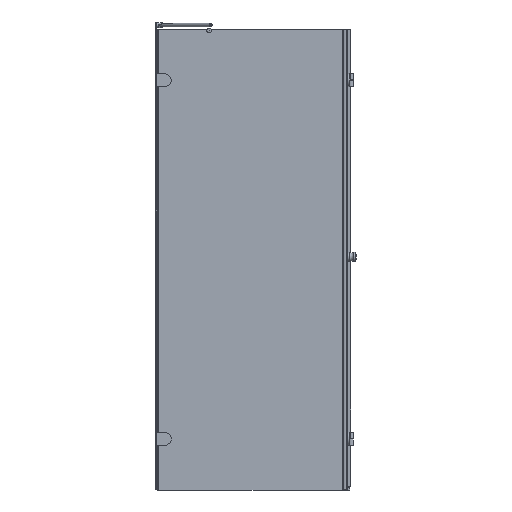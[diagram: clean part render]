
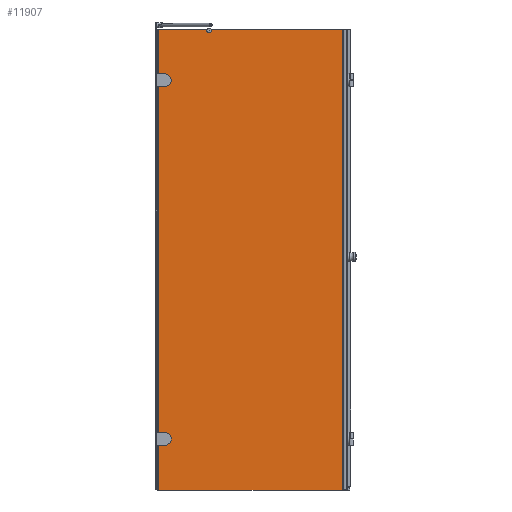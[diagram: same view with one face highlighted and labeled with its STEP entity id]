
A CAD part, front view. The second image highlights one B-rep face of the part: STEP entity #11907.
In plain terms, the highlighted planar face has unit normal (0, -1, 0).
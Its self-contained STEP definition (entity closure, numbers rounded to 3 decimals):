
#170=FACE_BOUND($,#1441,.T.);
#171=FACE_BOUND($,#1442,.T.);
#172=FACE_BOUND($,#1443,.T.);
#1441=EDGE_LOOP($,(#9348,#9349,#9350,#9351));
#1442=EDGE_LOOP($,(#9352,#9353,#9354,#9355));
#1443=EDGE_LOOP($,(#9356,#9357,#9358,#9359,#9360,#9361,#9362,#9363,#9364,
#9365,#9366,#9367,#9368,#9369,#9370));
#1965=LINE($,#17165,#3164);
#1970=LINE($,#17179,#3169);
#1973=LINE($,#17184,#3172);
#2015=LINE($,#17392,#3214);
#2020=LINE($,#17406,#3219);
#2023=LINE($,#17411,#3222);
#2366=LINE($,#18762,#3565);
#2430=LINE($,#19069,#3629);
#2431=LINE($,#19071,#3630);
#2432=LINE($,#19075,#3631);
#2433=LINE($,#19077,#3632);
#2434=LINE($,#19079,#3633);
#2435=LINE($,#19081,#3634);
#2436=LINE($,#19083,#3635);
#2437=LINE($,#19085,#3636);
#2438=LINE($,#19087,#3637);
#2439=LINE($,#19089,#3638);
#2440=LINE($,#19091,#3639);
#2441=LINE($,#19092,#3640);
#3164=VECTOR($,#13917,15.);
#3169=VECTOR($,#13930,15.);
#3172=VECTOR($,#13935,52.);
#3214=VECTOR($,#14085,15.);
#3219=VECTOR($,#14098,15.);
#3222=VECTOR($,#14103,52.);
#3565=VECTOR($,#15152,3.581);
#3629=VECTOR($,#15384,1898.);
#3630=VECTOR($,#15385,546.666);
#3631=VECTOR($,#15388,198.774);
#3632=VECTOR($,#15389,1900.);
#3633=VECTOR($,#15390,2.257);
#3634=VECTOR($,#15391,1900.);
#3635=VECTOR($,#15392,2.443);
#3636=VECTOR($,#15393,1900.);
#3637=VECTOR($,#15394,1.);
#3638=VECTOR($,#15395,762.4);
#3639=VECTOR($,#15396,1.);
#3640=VECTOR($,#15397,0.019);
#4138=CIRCLE($,#12361,26.);
#4167=CIRCLE($,#12420,26.);
#4348=CIRCLE($,#12820,2.);
#4366=CIRCLE($,#12861,10.);
#4704=VERTEX_POINT($,#17163);
#4705=VERTEX_POINT($,#17164);
#4708=VERTEX_POINT($,#17172);
#4710=VERTEX_POINT($,#17178);
#4762=VERTEX_POINT($,#17390);
#4763=VERTEX_POINT($,#17391);
#4766=VERTEX_POINT($,#17399);
#4768=VERTEX_POINT($,#17405);
#5122=VERTEX_POINT($,#18759);
#5123=VERTEX_POINT($,#18761);
#5167=VERTEX_POINT($,#18976);
#5189=VERTEX_POINT($,#19068);
#5190=VERTEX_POINT($,#19070);
#5191=VERTEX_POINT($,#19072);
#5192=VERTEX_POINT($,#19074);
#5193=VERTEX_POINT($,#19076);
#5194=VERTEX_POINT($,#19078);
#5195=VERTEX_POINT($,#19080);
#5196=VERTEX_POINT($,#19082);
#5197=VERTEX_POINT($,#19084);
#5198=VERTEX_POINT($,#19086);
#5199=VERTEX_POINT($,#19088);
#5200=VERTEX_POINT($,#19090);
#5916=EDGE_CURVE($,#4704,#4705,#1965,.T.);
#5920=EDGE_CURVE($,#4705,#4708,#4138,.T.);
#5923=EDGE_CURVE($,#4708,#4710,#1970,.T.);
#5926=EDGE_CURVE($,#4710,#4704,#1973,.T.);
#5997=EDGE_CURVE($,#4762,#4763,#2015,.T.);
#6001=EDGE_CURVE($,#4763,#4766,#4167,.T.);
#6004=EDGE_CURVE($,#4766,#4768,#2020,.T.);
#6007=EDGE_CURVE($,#4768,#4762,#2023,.T.);
#6539=EDGE_CURVE($,#5123,#5122,#2366,.T.);
#6605=EDGE_CURVE($,#5167,#5123,#4348,.T.);
#6652=EDGE_CURVE($,#5189,#5122,#2430,.T.);
#6653=EDGE_CURVE($,#5189,#5190,#2431,.T.);
#6654=EDGE_CURVE($,#5190,#5191,#4366,.T.);
#6655=EDGE_CURVE($,#5191,#5192,#2432,.T.);
#6656=EDGE_CURVE($,#5192,#5193,#2433,.T.);
#6657=EDGE_CURVE($,#5194,#5193,#2434,.T.);
#6658=EDGE_CURVE($,#5194,#5195,#2435,.T.);
#6659=EDGE_CURVE($,#5195,#5196,#2436,.T.);
#6660=EDGE_CURVE($,#5196,#5197,#2437,.T.);
#6661=EDGE_CURVE($,#5197,#5198,#2438,.T.);
#6662=EDGE_CURVE($,#5198,#5199,#2439,.T.);
#6663=EDGE_CURVE($,#5200,#5199,#2440,.T.);
#6664=EDGE_CURVE($,#5167,#5200,#2441,.T.);
#9348=ORIENTED_EDGE($,*,*,#5916,.T.);
#9349=ORIENTED_EDGE($,*,*,#5920,.T.);
#9350=ORIENTED_EDGE($,*,*,#5923,.T.);
#9351=ORIENTED_EDGE($,*,*,#5926,.T.);
#9352=ORIENTED_EDGE($,*,*,#5997,.T.);
#9353=ORIENTED_EDGE($,*,*,#6001,.T.);
#9354=ORIENTED_EDGE($,*,*,#6004,.T.);
#9355=ORIENTED_EDGE($,*,*,#6007,.T.);
#9356=ORIENTED_EDGE($,*,*,#6605,.T.);
#9357=ORIENTED_EDGE($,*,*,#6539,.T.);
#9358=ORIENTED_EDGE($,*,*,#6652,.F.);
#9359=ORIENTED_EDGE($,*,*,#6653,.T.);
#9360=ORIENTED_EDGE($,*,*,#6654,.T.);
#9361=ORIENTED_EDGE($,*,*,#6655,.T.);
#9362=ORIENTED_EDGE($,*,*,#6656,.T.);
#9363=ORIENTED_EDGE($,*,*,#6657,.F.);
#9364=ORIENTED_EDGE($,*,*,#6658,.T.);
#9365=ORIENTED_EDGE($,*,*,#6659,.T.);
#9366=ORIENTED_EDGE($,*,*,#6660,.T.);
#9367=ORIENTED_EDGE($,*,*,#6661,.T.);
#9368=ORIENTED_EDGE($,*,*,#6662,.T.);
#9369=ORIENTED_EDGE($,*,*,#6663,.F.);
#9370=ORIENTED_EDGE($,*,*,#6664,.F.);
#10696=PLANE($,#12860);
#11907=ADVANCED_FACE($,(#170,#171,#172),#10696,.T.);
#12361=AXIS2_PLACEMENT_3D($,#17173,#13923,#13924);
#12420=AXIS2_PLACEMENT_3D($,#17400,#14091,#14092);
#12820=AXIS2_PLACEMENT_3D($,#18977,#15273,#15274);
#12860=AXIS2_PLACEMENT_3D($,#19067,#15382,#15383);
#12861=AXIS2_PLACEMENT_3D($,#19073,#15386,#15387);
#13917=DIRECTION($,(1.,0.,0.));
#13923=DIRECTION('center_axis',(0.,1.,0.));
#13924=DIRECTION('ref_axis',(0.,0.,
1.));
#13930=DIRECTION($,(-1.,0.,0.));
#13935=DIRECTION($,(0.,0.,1.));
#14085=DIRECTION($,(1.,0.,0.));
#14091=DIRECTION('center_axis',(0.,1.,0.));
#14092=DIRECTION('ref_axis',(0.,0.,
1.));
#14098=DIRECTION($,(-1.,0.,0.));
#14103=DIRECTION($,(0.,0.,1.));
#15152=DIRECTION($,(1.,0.,0.));
#15273=DIRECTION('center_axis',(0.,1.,0.));
#15274=DIRECTION('ref_axis',(-0.707,0.,
0.707));
#15382=DIRECTION('center_axis',(0.,-1.,0.));
#15383=DIRECTION('ref_axis',(-1.,0.,0.));
#15384=DIRECTION($,(0.,0.,-1.));
#15385=DIRECTION($,(-1.,0.,0.));
#15386=DIRECTION('center_axis',(0.,1.,0.));
#15387=DIRECTION('ref_axis',(0.,0.,
-1.));
#15388=DIRECTION($,(-1.,0.,0.));
#15389=DIRECTION($,(0.,0.,-1.));
#15390=DIRECTION($,(1.,0.,0.));
#15391=DIRECTION($,(0.,0.,1.));
#15392=DIRECTION($,(-1.,0.,0.));
#15393=DIRECTION($,(0.,0.,-1.));
#15394=DIRECTION($,(0.,0.,-1.));
#15395=DIRECTION($,(1.,0.,0.));
#15396=DIRECTION($,(0.,0.,-1.));
#15397=DIRECTION($,(-1.,0.,0.));
#17163=CARTESIAN_POINT('',(472.733,-204.044,-278.056));
#17164=CARTESIAN_POINT('',(487.733,-204.044,-278.056));
#17165=CARTESIAN_POINT($,(857.233,-204.044,-278.056));
#17172=CARTESIAN_POINT('',(487.733,-204.044,-330.056));
#17173=CARTESIAN_POINT('Origin',(487.733,-204.044,-304.056));
#17178=CARTESIAN_POINT('',(472.733,-204.044,-330.056));
#17179=CARTESIAN_POINT($,(849.733,-204.044,-330.056));
#17184=CARTESIAN_POINT($,(472.733,-204.044,553.944));
#17390=CARTESIAN_POINT('',(472.733,-204.044,1201.944));
#17391=CARTESIAN_POINT('',(487.733,-204.044,1201.944));
#17392=CARTESIAN_POINT($,(857.233,-204.044,1201.944));
#17399=CARTESIAN_POINT('',(487.733,-204.044,1149.944));
#17400=CARTESIAN_POINT('Origin',(487.733,-204.044,1175.944));
#17405=CARTESIAN_POINT('',(472.733,-204.044,1149.944));
#17406=CARTESIAN_POINT($,(849.733,-204.044,1149.944));
#17411=CARTESIAN_POINT($,(472.733,-204.044,1293.944));
#18759=CARTESIAN_POINT('',(1226.733,-204.044,-512.056));
#18761=CARTESIAN_POINT('',(1223.152,-204.044,-512.056));
#18762=CARTESIAN_POINT($,(1231.568,-204.044,-512.056));
#18976=CARTESIAN_POINT('',(1221.152,-204.044,-514.056));
#18977=CARTESIAN_POINT('Origin',(1223.152,-204.044,-514.056));
#19067=CARTESIAN_POINT('Origin',(1226.733,-204.044,1385.944));
#19068=CARTESIAN_POINT('',(1226.733,-204.044,1385.944));
#19069=CARTESIAN_POINT($,(1226.733,-204.044,1385.944));
#19070=CARTESIAN_POINT('',(680.068,-204.044,1385.944));
#19071=CARTESIAN_POINT($,(1226.733,-204.044,1385.944));
#19072=CARTESIAN_POINT('',(662.207,-204.044,1385.944));
#19073=CARTESIAN_POINT('Origin',(671.137,-204.044,1381.444));
#19074=CARTESIAN_POINT('',(463.433,-204.044,1385.944));
#19075=CARTESIAN_POINT($,(1226.733,-204.044,1385.944));
#19076=CARTESIAN_POINT('',(463.433,-204.044,-514.056));
#19077=CARTESIAN_POINT($,(463.433,-204.044,435.944));
#19078=CARTESIAN_POINT('',(461.176,-204.044,-514.056));
#19079=CARTESIAN_POINT($,(650.733,-204.044,-514.056));
#19080=CARTESIAN_POINT('',(461.176,-204.044,1385.944));
#19081=CARTESIAN_POINT($,(461.176,-204.044,435.944));
#19082=CARTESIAN_POINT('',(458.733,-204.044,1385.944));
#19083=CARTESIAN_POINT($,(1226.733,-204.044,1385.944));
#19084=CARTESIAN_POINT('',(458.733,-204.044,-514.056));
#19085=CARTESIAN_POINT($,(458.733,-204.044,1385.944));
#19086=CARTESIAN_POINT('',(458.733,-204.044,-515.056));
#19087=CARTESIAN_POINT($,(458.733,-204.044,-514.056));
#19088=CARTESIAN_POINT('',(1221.133,-204.044,-515.056));
#19089=CARTESIAN_POINT($,(458.733,-204.044,-515.056));
#19090=CARTESIAN_POINT('',(1221.133,-204.044,-514.056));
#19091=CARTESIAN_POINT($,(1221.133,-204.044,-514.056));
#19092=CARTESIAN_POINT($,(1226.733,-204.044,-514.056));
